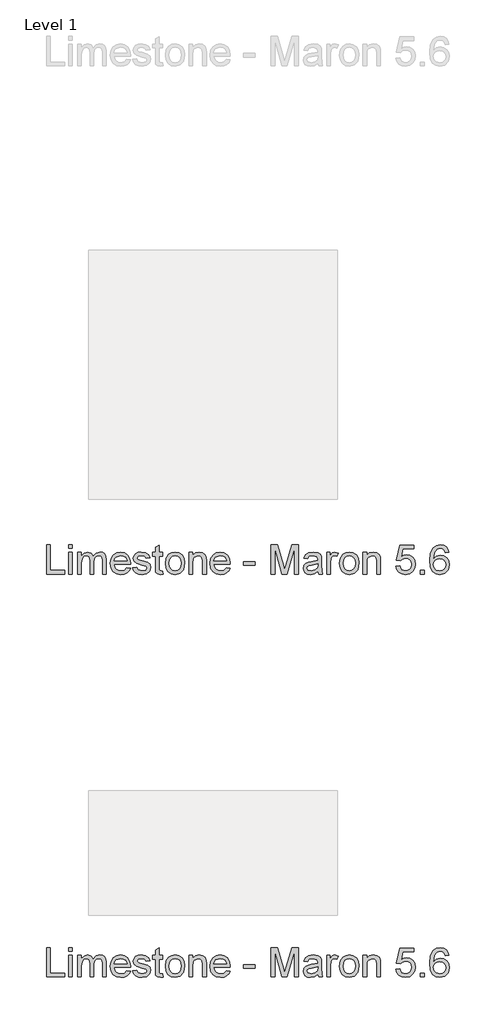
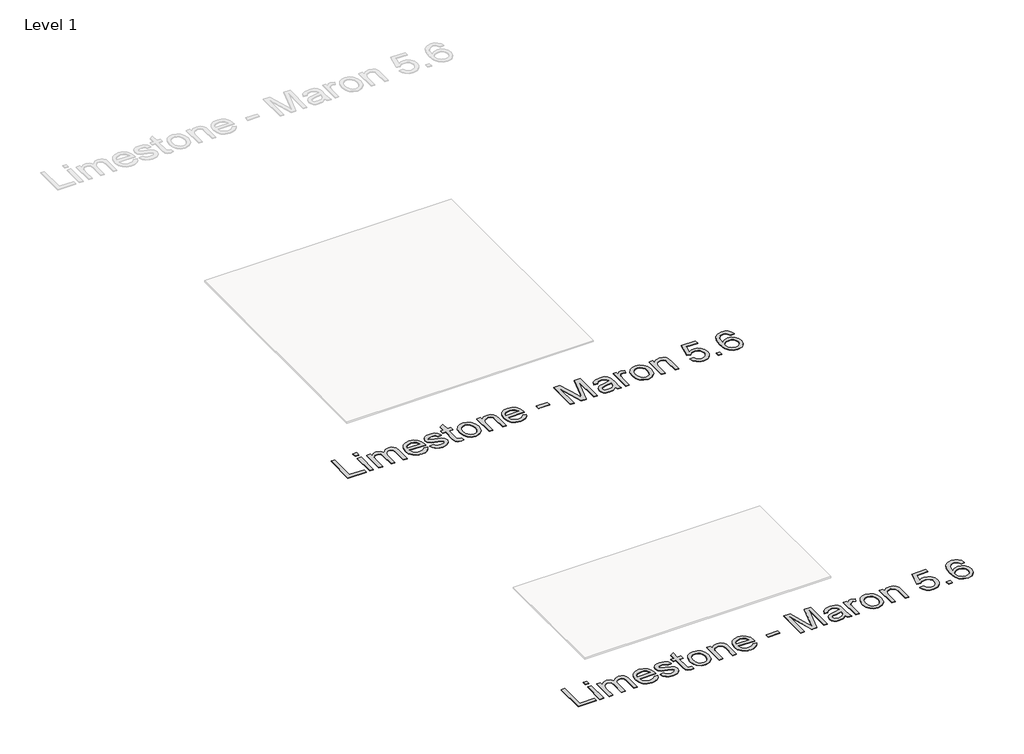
# One storey, part 18 of 80: 2 proxies.
"""IFC4 building model written with IfcOpenShell, lengths in millimetres."""

from ifc_helpers import new_model, si_unit, origin, origin_with_axes, place, context, project, spatial, polyline, outline, extrude, element, save

model = new_model("IFC4")

# Units and contexts
model_context = context("Model", 3, world=origin())
ifc_project = project(units=[si_unit("LENGTHUNIT", "METRE", prefix="MILLI")], contexts=[model_context])

# Site, building, storey
site = spatial("IfcSite", under=ifc_project)
building = spatial("IfcBuilding", under=site)
storey = spatial("IfcBuildingStorey", under=building, Name="Level 1", Elevation=0.0)

# Proxies
placement = place(None, origin())
element("IfcBuildingElementProxy", 1, Name="24\" Arial", ObjectType="24\" Arial", at=placement, inside=storey, context=model_context, shape_type="SweptSolid", body=[
    extrude(outline(polyline([(-23314.7684156, -675.4265771), (-23314.7684156, -557.272731), (-23299.9991848, -557.272731), (-23299.9991848, -660.6573464), (-23240.9222617, -660.6573464), (-23240.9222617, -675.4265771), (-23314.7684156, -675.4265771)])), origin_with_axes(), (0.0, 0.0, 1.0), 2.0),
    extrude(outline(polyline([(-23226.153031, -572.0419617), (-23226.153031, -557.272731), (-23211.3838002, -557.272731), (-23211.3838002, -572.0419617), (-23226.153031, -572.0419617)])), origin_with_axes(), (0.0, 0.0, 1.0), 2.0),
    extrude(outline(polyline([(-23226.153031, -675.4265771), (-23226.153031, -588.6573464), (-23211.3838002, -588.6573464), (-23211.3838002, -675.4265771), (-23226.153031, -675.4265771)])), origin_with_axes(), (0.0, 0.0, 1.0), 2.0),
    extrude(outline(polyline([(-23189.2299541, -675.4265771), (-23189.2299541, -588.6573464), (-23174.4607233, -588.6573464), (-23174.4607233, -602.9361925), (-23164.3068771, -591.2390771), (-23149.8549541, -586.8111925), (-23135.0568771, -591.3256156), (-23126.9222617, -603.974654), (-23115.3982233, -591.1020579), (-23100.8453387, -586.8111925), (-23089.7431752, -588.5960483), (-23081.5328387, -593.9506156), (-23076.4595214, -603.0191252), (-23074.7684156, -615.9458079), (-23074.7684156, -675.4265771), (-23089.5376464, -675.4265771), (-23089.5376464, -622.2919617), (-23090.9078387, -609.960231), (-23095.8693771, -603.8881156), (-23104.3068771, -601.5804233), (-23112.3080791, -603.0587887), (-23118.8309156, -607.4938848), (-23123.168656, -615.1885964), (-23124.6145694, -626.4458079), (-23124.6145694, -675.4265771), (-23139.3838002, -675.4265771), (-23139.3838002, -620.647731), (-23142.8020694, -606.3400387), (-23154.0088002, -601.5804233), (-23164.9414925, -604.7535002), (-23172.2107233, -614.0419617), (-23174.4607233, -631.6669617), (-23174.4607233, -675.4265771), (-23189.2299541, -675.4265771)])), origin_with_axes(), (0.0, 0.0, 1.0), 2.0),
    extrude(outline(polyline([(-22991.8645694, -649.5804233), (-22977.3838002, -651.4265771), (-22982.6013483, -662.3376348), (-22990.9270694, -670.4938848), (-23002.1734637, -675.5780194), (-23016.153031, -677.272731), (-23033.4823579, -674.3484521), (-23046.8164925, -665.5756156), (-23055.3188964, -651.5239329), (-23058.153031, -632.7631156), (-23055.2900502, -613.3712887), (-23046.7011079, -598.8688848), (-23033.5472617, -589.8256156), (-23016.9895694, -586.8111925), (-23000.9475021, -589.818404), (-22988.1289925, -598.8400387), (-22979.7239444, -613.3135964), (-22976.9222617, -632.6765771), (-22977.0088002, -636.6573464), (-23043.3838002, -636.6573464), (-23040.8273098, -647.7126348), (-23034.8886079, -655.8400387), (-23026.3176944, -660.8376348), (-23015.8645694, -662.5035002), (-23001.3838002, -659.4169617), (-22991.8645694, -649.5804233)]), holes=[polyline([(-23043.3838002, -621.8881156), (-22991.6914925, -621.8881156), (-22997.6049541, -608.5035002), (-23006.215531, -603.3111925), (-23017.0472617, -601.5804233), (-23035.2347617, -607.1044617), (-23040.9571175, -613.5623944), (-23043.3838002, -621.8881156)])]), origin_with_axes(), (0.0, 0.0, 1.0), 2.0),
    extrude(outline(polyline([(-22967.6914925, -649.5804233), (-22952.9222617, -647.7342694), (-22946.0857233, -658.6958079), (-22930.4222617, -662.5035002), (-22915.3645694, -659.0131156), (-22910.4607233, -650.8208079), (-22915.3934156, -644.1861925), (-22930.5953387, -639.974654), (-22952.8357233, -632.7486925), (-22962.5424541, -624.3111925), (-22965.8453387, -612.397731), (-22963.1914925, -601.3929233), (-22955.9511079, -592.9842694), (-22946.5616848, -588.6140771), (-22933.8549541, -586.8111925), (-22915.8838002, -589.710231), (-22904.4607233, -597.5563848), (-22899.3838002, -610.8111925), (-22914.153031, -612.6573464), (-22919.7059156, -604.5083079), (-22932.7011079, -601.5804233), (-22946.8357233, -604.3785002), (-22951.0761079, -610.897731), (-22949.3164925, -615.1958079), (-22943.8068771, -618.4554233), (-22931.0857233, -621.599654), (-22909.4078387, -628.5515771), (-22899.340531, -636.4265771), (-22895.6914925, -649.2631156), (-22899.9751464, -663.397731), (-22912.3357233, -673.6525387), (-22930.6241848, -677.272731), (-22945.5160117, -675.5275387), (-22956.3838002, -670.2919617), (-22963.6386079, -661.6236925), (-22967.6914925, -649.5804233)])), origin_with_axes(), (0.0, 0.0, 1.0), 2.0),
    extrude(outline(polyline([(-22847.6914925, -663.1092694), (-22845.8453387, -675.8592694), (-22856.8934156, -677.272731), (-22869.2684156, -674.8208079), (-22875.4414925, -668.3881156), (-22877.2299541, -651.6285002), (-22877.2299541, -603.4265771), (-22888.3068771, -603.4265771), (-22888.3068771, -588.6573464), (-22877.2299541, -588.6573464), (-22877.2299541, -567.5708079), (-22862.4607233, -558.8881156), (-22862.4607233, -588.6573464), (-22847.6914925, -588.6573464), (-22847.6914925, -603.4265771), (-22862.4607233, -603.4265771), (-22862.4607233, -651.1958079), (-22861.6818771, -658.8111925), (-22859.1578387, -661.5083079), (-22854.1241848, -662.5035002), (-22847.6914925, -663.1092694)])), origin_with_axes(), (0.0, 0.0, 1.0), 2.0),
    extrude(outline(polyline([(-22836.6145694, -632.0419617), (-22833.4198579, -611.1212887), (-22823.8357233, -596.4169617), (-22811.9943771, -589.2126348), (-22797.8164925, -586.8111925), (-22782.3008675, -589.7354714), (-22769.9078387, -598.5083079), (-22761.7840406, -612.4373944), (-22759.0761079, -630.8304233), (-22763.8645694, -657.1092694), (-22777.8116848, -671.9794617), (-22797.8164925, -677.272731), (-22813.5196175, -674.3592694), (-22825.8982233, -665.6188848), (-22833.9354829, -651.397731), (-22836.6145694, -632.0419617)]), holes=[polyline([(-22821.8453387, -632.0131156), (-22820.1362041, -645.3797021), (-22815.0088002, -654.9025387), (-22807.2924541, -660.6032598), (-22797.8164925, -662.5035002), (-22788.3838002, -660.5924425), (-22780.6818771, -654.8592694), (-22775.5544733, -645.210231), (-22773.8453387, -631.5515771), (-22775.5652906, -618.5744137), (-22780.7251464, -609.1813848), (-22788.4378867, -603.4806637), (-22797.8164925, -601.5804233), (-22807.2924541, -603.4734521), (-22815.0088002, -609.1525387), (-22820.1362041, -618.6537406), (-22821.8453387, -632.0131156)])]), origin_with_axes(), (0.0, 0.0, 1.0), 2.0),
    extrude(outline(polyline([(-22742.4607233, -675.4265771), (-22742.4607233, -588.6573464), (-22727.6914925, -588.6573464), (-22727.6914925, -600.772731), (-22716.3982233, -590.3015771), (-22700.9799541, -586.8111925), (-22687.0328387, -589.6236925), (-22677.5136079, -597.0083079), (-22673.0857233, -607.8688848), (-22672.3068771, -622.147731), (-22672.3068771, -675.4265771), (-22687.0761079, -675.4265771), (-22687.0761079, -624.1381156), (-22688.778031, -611.0708079), (-22694.7924541, -604.162154), (-22704.9318771, -601.5804233), (-22720.9559156, -607.3785002), (-22726.0075983, -615.7799425), (-22727.6914925, -629.3881156), (-22727.6914925, -675.4265771), (-22742.4607233, -675.4265771)])), origin_with_axes(), (0.0, 0.0, 1.0), 2.0),
    extrude(outline(polyline([(-22591.2491848, -649.5804233), (-22576.7684156, -651.4265771), (-22581.9859637, -662.3376348), (-22590.3116848, -670.4938848), (-22601.5580791, -675.5780194), (-22615.5376464, -677.272731), (-22632.8669733, -674.3484521), (-22646.2011079, -665.5756156), (-22654.7035117, -651.5239329), (-22657.5376464, -632.7631156), (-22654.6746656, -613.3712887), (-22646.0857233, -598.8688848), (-22632.9318771, -589.8256156), (-22616.3741848, -586.8111925), (-22600.3321175, -589.818404), (-22587.5136079, -598.8400387), (-22579.1085598, -613.3135964), (-22576.3068771, -632.6765771), (-22576.3934156, -636.6573464), (-22642.7684156, -636.6573464), (-22640.2119252, -647.7126348), (-22634.2732233, -655.8400387), (-22625.7023098, -660.8376348), (-22615.2491848, -662.5035002), (-22600.7684156, -659.4169617), (-22591.2491848, -649.5804233)]), holes=[polyline([(-22642.7684156, -621.8881156), (-22591.0761079, -621.8881156), (-22596.9895694, -608.5035002), (-22605.6001464, -603.3111925), (-22616.4318771, -601.5804233), (-22634.6193771, -607.1044617), (-22640.3417329, -613.5623944), (-22642.7684156, -621.8881156)])]), origin_with_axes(), (0.0, 0.0, 1.0), 2.0),
    extrude(outline(polyline([(-22522.7684156, -640.349654), (-22522.7684156, -625.5804233), (-22476.6145694, -625.5804233), (-22476.6145694, -640.349654), (-22522.7684156, -640.349654)])), origin_with_axes(), (0.0, 0.0, 1.0), 2.0),
    extrude(outline(polyline([(-22411.9991848, -675.4265771), (-22411.9991848, -557.272731), (-22386.5857233, -557.272731), (-22362.4126464, -640.5515771), (-22357.5376464, -657.9458079), (-22352.2588002, -639.1092694), (-22328.4895694, -557.272731), (-22303.0761079, -557.272731), (-22303.0761079, -675.4265771), (-22317.8453387, -675.4265771), (-22317.8453387, -572.0419617), (-22347.528031, -675.4265771), (-22367.5472617, -675.4265771), (-22397.2299541, -572.0419617), (-22397.2299541, -675.4265771), (-22411.9991848, -675.4265771)])), origin_with_axes(), (0.0, 0.0, 1.0), 2.0),
    extrude(outline(polyline([(-22223.6914925, -664.349654), (-22238.0136079, -674.3592694), (-22253.8357233, -677.272731), (-22266.1782714, -675.5203271), (-22275.2828387, -670.2631156), (-22280.8970214, -662.2799425), (-22282.7684156, -652.349654), (-22279.9414925, -640.6669617), (-22272.5136079, -632.1861925), (-22262.1722617, -627.3400387), (-22249.3934156, -625.1188848), (-22223.778031, -620.0419617), (-22223.6914925, -616.7535002), (-22227.7588002, -605.849654), (-22244.0857233, -601.5804233), (-22259.028031, -604.4217694), (-22266.153031, -614.5035002), (-22280.9222617, -612.6573464), (-22274.5328387, -598.2342694), (-22261.6674541, -589.7823464), (-22242.1818771, -586.8111925), (-22224.2828387, -589.4361925), (-22214.1722617, -596.0275387), (-22209.6434156, -606.0515771), (-22208.9222617, -618.974654), (-22208.9222617, -637.349654), (-22208.1722617, -663.0083079), (-22205.2299541, -675.4265771), (-22219.9991848, -675.4265771), (-22223.6914925, -664.349654)]), holes=[polyline([(-22223.6914925, -634.8111925), (-22247.5184156, -639.3400387), (-22260.2251464, -641.7342694), (-22265.9799541, -645.6285002), (-22267.9991848, -651.3111925), (-22263.6001464, -659.3015771), (-22250.6914925, -662.5035002), (-22235.7491848, -658.9698464), (-22226.1145694, -650.4169617), (-22223.778031, -638.9938848), (-22223.6914925, -634.8111925)])]), origin_with_axes(), (0.0, 0.0, 1.0), 2.0),
    extrude(outline(polyline([(-22188.6145694, -675.4265771), (-22188.6145694, -588.6573464), (-22175.6914925, -588.6573464), (-22175.6914925, -601.4938848), (-22166.5184156, -589.6669617), (-22157.2876464, -586.8111925), (-22142.4607233, -591.3688848), (-22147.3934156, -604.6092694), (-22157.778031, -601.5804233), (-22166.1289925, -604.4938848), (-22171.4511079, -612.5708079), (-22173.8453387, -629.8208079), (-22173.8453387, -675.4265771), (-22188.6145694, -675.4265771)])), origin_with_axes(), (0.0, 0.0, 1.0), 2.0),
    extrude(outline(polyline([(-22136.9222617, -632.0419617), (-22133.7275502, -611.1212887), (-22124.1434156, -596.4169617), (-22112.3020694, -589.2126348), (-22098.1241848, -586.8111925), (-22082.6085598, -589.7354714), (-22070.215531, -598.5083079), (-22062.0917329, -612.4373944), (-22059.3838002, -630.8304233), (-22064.1722617, -657.1092694), (-22078.1193771, -671.9794617), (-22098.1241848, -677.272731), (-22113.8273098, -674.3592694), (-22126.2059156, -665.6188848), (-22134.2431752, -651.397731), (-22136.9222617, -632.0419617)]), holes=[polyline([(-22122.153031, -632.0131156), (-22120.4438964, -645.3797021), (-22115.3164925, -654.9025387), (-22107.6001464, -660.6032598), (-22098.1241848, -662.5035002), (-22088.6914925, -660.5924425), (-22080.9895694, -654.8592694), (-22075.8621656, -645.210231), (-22074.153031, -631.5515771), (-22075.8729829, -618.5744137), (-22081.0328387, -609.1813848), (-22088.7455791, -603.4806637), (-22098.1241848, -601.5804233), (-22107.6001464, -603.4734521), (-22115.3164925, -609.1525387), (-22120.4438964, -618.6537406), (-22122.153031, -632.0131156)])]), origin_with_axes(), (0.0, 0.0, 1.0), 2.0),
    extrude(outline(polyline([(-22042.7684156, -675.4265771), (-22042.7684156, -588.6573464), (-22027.9991848, -588.6573464), (-22027.9991848, -600.772731), (-22016.7059156, -590.3015771), (-22001.2876464, -586.8111925), (-21987.340531, -589.6236925), (-21977.8213002, -597.0083079), (-21973.3934156, -607.8688848), (-21972.6145694, -622.147731), (-21972.6145694, -675.4265771), (-21987.3838002, -675.4265771), (-21987.3838002, -624.1381156), (-21989.0857233, -611.0708079), (-21995.1001464, -604.162154), (-22005.2395694, -601.5804233), (-22021.2636079, -607.3785002), (-22026.3152906, -615.7799425), (-22027.9991848, -629.3881156), (-22027.9991848, -675.4265771), (-22042.7684156, -675.4265771)])), origin_with_axes(), (0.0, 0.0, 1.0), 2.0),
    extrude(outline(polyline([(-21909.8453387, -644.0419617), (-21895.0761079, -642.1958079), (-21887.6338002, -657.412154), (-21872.2011079, -662.5035002), (-21861.6145694, -660.7330675), (-21853.6818771, -655.4217694), (-21848.7275502, -647.1825867), (-21847.0761079, -636.6285002), (-21848.6229829, -626.6910002), (-21853.2636079, -619.0900387), (-21861.0340406, -614.2655194), (-21871.9703387, -612.6573464), (-21884.9366848, -615.224654), (-21893.2299541, -621.8881156), (-21907.9991848, -620.0419617), (-21895.0761079, -559.1188848), (-21837.8453387, -559.1188848), (-21837.8453387, -573.8881156), (-21883.1338002, -573.8881156), (-21889.4511079, -606.4265771), (-21878.9006271, -600.022731), (-21867.8453387, -597.8881156), (-21854.0460598, -600.5347502), (-21842.590531, -608.474654), (-21834.8777906, -620.5756156), (-21832.3068771, -635.7054233), (-21834.621781, -650.474654), (-21841.5664925, -663.1092694), (-21854.8645694, -673.7318656), (-21872.2588002, -677.272731), (-21886.7648098, -674.9974906), (-21898.3213002, -668.1717694), (-21906.2431752, -657.5888367), (-21909.8453387, -644.0419617)])), origin_with_axes(), (0.0, 0.0, 1.0), 2.0),
    extrude(outline(polyline([(-21811.9991848, -675.4265771), (-21811.9991848, -660.6573464), (-21797.2299541, -660.6573464), (-21797.2299541, -675.4265771), (-21811.9991848, -675.4265771)])), origin_with_axes(), (0.0, 0.0, 1.0), 2.0),
    extrude(outline(polyline([(-21697.5376464, -588.6573464), (-21712.3068771, -590.5035002), (-21717.903031, -578.1861925), (-21724.6025502, -573.5780194), (-21732.7011079, -572.0419617), (-21746.028031, -575.6188848), (-21756.1097617, -589.0467694), (-21760.3068771, -615.3688848), (-21747.2828387, -603.585231), (-21731.1434156, -599.7342694), (-21717.4991848, -602.366481), (-21706.0472617, -610.2631156), (-21698.2804348, -622.3280194), (-21695.6914925, -637.4650387), (-21700.5664925, -657.8448464), (-21713.9799541, -672.2679233), (-21733.3357233, -677.272731), (-21750.0917329, -673.9554233), (-21763.4366848, -664.0035002), (-21772.1662521, -646.4361925), (-21775.0761079, -620.272731), (-21771.8453387, -590.8568656), (-21762.153031, -570.7438848), (-21748.9198579, -560.6405194), (-21731.778031, -557.272731), (-21718.8188964, -559.3568656), (-21708.4414925, -565.6092694), (-21701.1722617, -575.5395579), (-21697.5376464, -588.6573464)]), holes=[polyline([(-21760.3068771, -637.2342694), (-21756.8886079, -650.0275387), (-21747.8020694, -659.3160002), (-21734.4895694, -662.5035002), (-21724.7431752, -660.8520579), (-21717.0809156, -655.897731), (-21712.1157714, -648.1092694), (-21710.4607233, -637.9554233), (-21712.0941367, -628.209029), (-21716.9943771, -620.7775387), (-21724.7864444, -616.0720098), (-21735.0953387, -614.5035002), (-21744.8273098, -616.0720098), (-21752.965531, -620.7775387), (-21758.4715406, -628.0287406), (-21760.3068771, -637.2342694)])]), origin_with_axes(), (0.0, 0.0, 1.0), 2.0),
])
element("IfcBuildingElementProxy", 2, Name="24\" Arial", ObjectType="24\" Arial", at=placement, inside=storey, context=model_context, shape_type="SweptSolid", body=[
    extrude(outline(polyline([(-23314.7684156, -2293.131793), (-23314.7684156, -2174.9779468), (-23299.9991848, -2174.9779468), (-23299.9991848, -2278.3625622), (-23240.9222617, -2278.3625622), (-23240.9222617, -2293.131793), (-23314.7684156, -2293.131793)])), origin_with_axes(), (0.0, 0.0, 1.0), 2.0),
    extrude(outline(polyline([(-23226.153031, -2189.7471776), (-23226.153031, -2174.9779468), (-23211.3838002, -2174.9779468), (-23211.3838002, -2189.7471776), (-23226.153031, -2189.7471776)])), origin_with_axes(), (0.0, 0.0, 1.0), 2.0),
    extrude(outline(polyline([(-23226.153031, -2293.131793), (-23226.153031, -2206.3625622), (-23211.3838002, -2206.3625622), (-23211.3838002, -2293.131793), (-23226.153031, -2293.131793)])), origin_with_axes(), (0.0, 0.0, 1.0), 2.0),
    extrude(outline(polyline([(-23189.2299541, -2293.131793), (-23189.2299541, -2206.3625622), (-23174.4607233, -2206.3625622), (-23174.4607233, -2220.6414084), (-23164.3068771, -2208.944293), (-23149.8549541, -2204.5164084), (-23135.0568771, -2209.0308314), (-23126.9222617, -2221.6798699), (-23115.3982233, -2208.8072737), (-23100.8453387, -2204.5164084), (-23089.7431752, -2206.3012641), (-23081.5328387, -2211.6558314), (-23076.4595214, -2220.724341), (-23074.7684156, -2233.6510237), (-23074.7684156, -2293.131793), (-23089.5376464, -2293.131793), (-23089.5376464, -2239.9971776), (-23090.9078387, -2227.6654468), (-23095.8693771, -2221.5933314), (-23104.3068771, -2219.2856391), (-23112.3080791, -2220.7640045), (-23118.8309156, -2225.1991007), (-23123.168656, -2232.8938122), (-23124.6145694, -2244.1510237), (-23124.6145694, -2293.131793), (-23139.3838002, -2293.131793), (-23139.3838002, -2238.3529468), (-23142.8020694, -2224.0452545), (-23154.0088002, -2219.2856391), (-23164.9414925, -2222.458716), (-23172.2107233, -2231.7471776), (-23174.4607233, -2249.3721776), (-23174.4607233, -2293.131793), (-23189.2299541, -2293.131793)])), origin_with_axes(), (0.0, 0.0, 1.0), 2.0),
    extrude(outline(polyline([(-22991.8645694, -2267.2856391), (-22977.3838002, -2269.131793), (-22982.6013483, -2280.0428507), (-22990.9270694, -2288.1991007), (-23002.1734637, -2293.2832353), (-23016.153031, -2294.9779468), (-23033.4823579, -2292.053668), (-23046.8164925, -2283.2808314), (-23055.3188964, -2269.2291487), (-23058.153031, -2250.4683314), (-23055.2900502, -2231.0765045), (-23046.7011079, -2216.5741007), (-23033.5472617, -2207.5308314), (-23016.9895694, -2204.5164084), (-23000.9475021, -2207.5236199), (-22988.1289925, -2216.5452545), (-22979.7239444, -2231.0188122), (-22976.9222617, -2250.381793), (-22977.0088002, -2254.3625622), (-23043.3838002, -2254.3625622), (-23040.8273098, -2265.4178507), (-23034.8886079, -2273.5452545), (-23026.3176944, -2278.5428507), (-23015.8645694, -2280.208716), (-23001.3838002, -2277.1221776), (-22991.8645694, -2267.2856391)]), holes=[polyline([(-23043.3838002, -2239.5933314), (-22991.6914925, -2239.5933314), (-22997.6049541, -2226.208716), (-23006.215531, -2221.0164084), (-23017.0472617, -2219.2856391), (-23035.2347617, -2224.8096776), (-23040.9571175, -2231.2676103), (-23043.3838002, -2239.5933314)])]), origin_with_axes(), (0.0, 0.0, 1.0), 2.0),
    extrude(outline(polyline([(-22967.6914925, -2267.2856391), (-22952.9222617, -2265.4394853), (-22946.0857233, -2276.4010237), (-22930.4222617, -2280.208716), (-22915.3645694, -2276.7183314), (-22910.4607233, -2268.5260237), (-22915.3934156, -2261.8914084), (-22930.5953387, -2257.6798699), (-22952.8357233, -2250.4539084), (-22962.5424541, -2242.0164084), (-22965.8453387, -2230.1029468), (-22963.1914925, -2219.0981391), (-22955.9511079, -2210.6894853), (-22946.5616848, -2206.319293), (-22933.8549541, -2204.5164084), (-22915.8838002, -2207.4154468), (-22904.4607233, -2215.2616007), (-22899.3838002, -2228.5164084), (-22914.153031, -2230.3625622), (-22919.7059156, -2222.2135237), (-22932.7011079, -2219.2856391), (-22946.8357233, -2222.083716), (-22951.0761079, -2228.6029468), (-22949.3164925, -2232.9010237), (-22943.8068771, -2236.1606391), (-22931.0857233, -2239.3048699), (-22909.4078387, -2246.256793), (-22899.340531, -2254.131793), (-22895.6914925, -2266.9683314), (-22899.9751464, -2281.1029468), (-22912.3357233, -2291.3577545), (-22930.6241848, -2294.9779468), (-22945.5160117, -2293.2327545), (-22956.3838002, -2287.9971776), (-22963.6386079, -2279.3289084), (-22967.6914925, -2267.2856391)])), origin_with_axes(), (0.0, 0.0, 1.0), 2.0),
    extrude(outline(polyline([(-22847.6914925, -2280.8144853), (-22845.8453387, -2293.5644853), (-22856.8934156, -2294.9779468), (-22869.2684156, -2292.5260237), (-22875.4414925, -2286.0933314), (-22877.2299541, -2269.333716), (-22877.2299541, -2221.131793), (-22888.3068771, -2221.131793), (-22888.3068771, -2206.3625622), (-22877.2299541, -2206.3625622), (-22877.2299541, -2185.2760237), (-22862.4607233, -2176.5933314), (-22862.4607233, -2206.3625622), (-22847.6914925, -2206.3625622), (-22847.6914925, -2221.131793), (-22862.4607233, -2221.131793), (-22862.4607233, -2268.9010237), (-22861.6818771, -2276.5164084), (-22859.1578387, -2279.2135237), (-22854.1241848, -2280.208716), (-22847.6914925, -2280.8144853)])), origin_with_axes(), (0.0, 0.0, 1.0), 2.0),
    extrude(outline(polyline([(-22836.6145694, -2249.7471776), (-22833.4198579, -2228.8265045), (-22823.8357233, -2214.1221776), (-22811.9943771, -2206.9178507), (-22797.8164925, -2204.5164084), (-22782.3008675, -2207.4406872), (-22769.9078387, -2216.2135237), (-22761.7840406, -2230.1426103), (-22759.0761079, -2248.5356391), (-22763.8645694, -2274.8144853), (-22777.8116848, -2289.6846776), (-22797.8164925, -2294.9779468), (-22813.5196175, -2292.0644853), (-22825.8982233, -2283.3241007), (-22833.9354829, -2269.1029468), (-22836.6145694, -2249.7471776)]), holes=[polyline([(-22821.8453387, -2249.7183314), (-22820.1362041, -2263.084918), (-22815.0088002, -2272.6077545), (-22807.2924541, -2278.3084757), (-22797.8164925, -2280.208716), (-22788.3838002, -2278.2976584), (-22780.6818771, -2272.5644853), (-22775.5544733, -2262.9154468), (-22773.8453387, -2249.256793), (-22775.5652906, -2236.2796295), (-22780.7251464, -2226.8866007), (-22788.4378867, -2221.1858795), (-22797.8164925, -2219.2856391), (-22807.2924541, -2221.178668), (-22815.0088002, -2226.8577545), (-22820.1362041, -2236.3589564), (-22821.8453387, -2249.7183314)])]), origin_with_axes(), (0.0, 0.0, 1.0), 2.0),
    extrude(outline(polyline([(-22742.4607233, -2293.131793), (-22742.4607233, -2206.3625622), (-22727.6914925, -2206.3625622), (-22727.6914925, -2218.4779468), (-22716.3982233, -2208.006793), (-22700.9799541, -2204.5164084), (-22687.0328387, -2207.3289084), (-22677.5136079, -2214.7135237), (-22673.0857233, -2225.5741007), (-22672.3068771, -2239.8529468), (-22672.3068771, -2293.131793), (-22687.0761079, -2293.131793), (-22687.0761079, -2241.8433314), (-22688.778031, -2228.7760237), (-22694.7924541, -2221.8673699), (-22704.9318771, -2219.2856391), (-22720.9559156, -2225.083716), (-22726.0075983, -2233.4851584), (-22727.6914925, -2247.0933314), (-22727.6914925, -2293.131793), (-22742.4607233, -2293.131793)])), origin_with_axes(), (0.0, 0.0, 1.0), 2.0),
    extrude(outline(polyline([(-22591.2491848, -2267.2856391), (-22576.7684156, -2269.131793), (-22581.9859637, -2280.0428507), (-22590.3116848, -2288.1991007), (-22601.5580791, -2293.2832353), (-22615.5376464, -2294.9779468), (-22632.8669733, -2292.053668), (-22646.2011079, -2283.2808314), (-22654.7035117, -2269.2291487), (-22657.5376464, -2250.4683314), (-22654.6746656, -2231.0765045), (-22646.0857233, -2216.5741007), (-22632.9318771, -2207.5308314), (-22616.3741848, -2204.5164084), (-22600.3321175, -2207.5236199), (-22587.5136079, -2216.5452545), (-22579.1085598, -2231.0188122), (-22576.3068771, -2250.381793), (-22576.3934156, -2254.3625622), (-22642.7684156, -2254.3625622), (-22640.2119252, -2265.4178507), (-22634.2732233, -2273.5452545), (-22625.7023098, -2278.5428507), (-22615.2491848, -2280.208716), (-22600.7684156, -2277.1221776), (-22591.2491848, -2267.2856391)]), holes=[polyline([(-22642.7684156, -2239.5933314), (-22591.0761079, -2239.5933314), (-22596.9895694, -2226.208716), (-22605.6001464, -2221.0164084), (-22616.4318771, -2219.2856391), (-22634.6193771, -2224.8096776), (-22640.3417329, -2231.2676103), (-22642.7684156, -2239.5933314)])]), origin_with_axes(), (0.0, 0.0, 1.0), 2.0),
    extrude(outline(polyline([(-22522.7684156, -2258.0548699), (-22522.7684156, -2243.2856391), (-22476.6145694, -2243.2856391), (-22476.6145694, -2258.0548699), (-22522.7684156, -2258.0548699)])), origin_with_axes(), (0.0, 0.0, 1.0), 2.0),
    extrude(outline(polyline([(-22411.9991848, -2293.131793), (-22411.9991848, -2174.9779468), (-22386.5857233, -2174.9779468), (-22362.4126464, -2258.256793), (-22357.5376464, -2275.6510237), (-22352.2588002, -2256.8144853), (-22328.4895694, -2174.9779468), (-22303.0761079, -2174.9779468), (-22303.0761079, -2293.131793), (-22317.8453387, -2293.131793), (-22317.8453387, -2189.7471776), (-22347.528031, -2293.131793), (-22367.5472617, -2293.131793), (-22397.2299541, -2189.7471776), (-22397.2299541, -2293.131793), (-22411.9991848, -2293.131793)])), origin_with_axes(), (0.0, 0.0, 1.0), 2.0),
    extrude(outline(polyline([(-22223.6914925, -2282.0548699), (-22238.0136079, -2292.0644853), (-22253.8357233, -2294.9779468), (-22266.1782714, -2293.225543), (-22275.2828387, -2287.9683314), (-22280.8970214, -2279.9851584), (-22282.7684156, -2270.0548699), (-22279.9414925, -2258.3721776), (-22272.5136079, -2249.8914084), (-22262.1722617, -2245.0452545), (-22249.3934156, -2242.8241007), (-22223.778031, -2237.7471776), (-22223.6914925, -2234.458716), (-22227.7588002, -2223.5548699), (-22244.0857233, -2219.2856391), (-22259.028031, -2222.1269853), (-22266.153031, -2232.208716), (-22280.9222617, -2230.3625622), (-22274.5328387, -2215.9394853), (-22261.6674541, -2207.4875622), (-22242.1818771, -2204.5164084), (-22224.2828387, -2207.1414084), (-22214.1722617, -2213.7327545), (-22209.6434156, -2223.756793), (-22208.9222617, -2236.6798699), (-22208.9222617, -2255.0548699), (-22208.1722617, -2280.7135237), (-22205.2299541, -2293.131793), (-22219.9991848, -2293.131793), (-22223.6914925, -2282.0548699)]), holes=[polyline([(-22223.6914925, -2252.5164084), (-22247.5184156, -2257.0452545), (-22260.2251464, -2259.4394853), (-22265.9799541, -2263.333716), (-22267.9991848, -2269.0164084), (-22263.6001464, -2277.006793), (-22250.6914925, -2280.208716), (-22235.7491848, -2276.6750622), (-22226.1145694, -2268.1221776), (-22223.778031, -2256.6991007), (-22223.6914925, -2252.5164084)])]), origin_with_axes(), (0.0, 0.0, 1.0), 2.0),
    extrude(outline(polyline([(-22188.6145694, -2293.131793), (-22188.6145694, -2206.3625622), (-22175.6914925, -2206.3625622), (-22175.6914925, -2219.1991007), (-22166.5184156, -2207.3721776), (-22157.2876464, -2204.5164084), (-22142.4607233, -2209.0741007), (-22147.3934156, -2222.3144853), (-22157.778031, -2219.2856391), (-22166.1289925, -2222.1991007), (-22171.4511079, -2230.2760237), (-22173.8453387, -2247.5260237), (-22173.8453387, -2293.131793), (-22188.6145694, -2293.131793)])), origin_with_axes(), (0.0, 0.0, 1.0), 2.0),
    extrude(outline(polyline([(-22136.9222617, -2249.7471776), (-22133.7275502, -2228.8265045), (-22124.1434156, -2214.1221776), (-22112.3020694, -2206.9178507), (-22098.1241848, -2204.5164084), (-22082.6085598, -2207.4406872), (-22070.215531, -2216.2135237), (-22062.0917329, -2230.1426103), (-22059.3838002, -2248.5356391), (-22064.1722617, -2274.8144853), (-22078.1193771, -2289.6846776), (-22098.1241848, -2294.9779468), (-22113.8273098, -2292.0644853), (-22126.2059156, -2283.3241007), (-22134.2431752, -2269.1029468), (-22136.9222617, -2249.7471776)]), holes=[polyline([(-22122.153031, -2249.7183314), (-22120.4438964, -2263.084918), (-22115.3164925, -2272.6077545), (-22107.6001464, -2278.3084757), (-22098.1241848, -2280.208716), (-22088.6914925, -2278.2976584), (-22080.9895694, -2272.5644853), (-22075.8621656, -2262.9154468), (-22074.153031, -2249.256793), (-22075.8729829, -2236.2796295), (-22081.0328387, -2226.8866007), (-22088.7455791, -2221.1858795), (-22098.1241848, -2219.2856391), (-22107.6001464, -2221.178668), (-22115.3164925, -2226.8577545), (-22120.4438964, -2236.3589564), (-22122.153031, -2249.7183314)])]), origin_with_axes(), (0.0, 0.0, 1.0), 2.0),
    extrude(outline(polyline([(-22042.7684156, -2293.131793), (-22042.7684156, -2206.3625622), (-22027.9991848, -2206.3625622), (-22027.9991848, -2218.4779468), (-22016.7059156, -2208.006793), (-22001.2876464, -2204.5164084), (-21987.340531, -2207.3289084), (-21977.8213002, -2214.7135237), (-21973.3934156, -2225.5741007), (-21972.6145694, -2239.8529468), (-21972.6145694, -2293.131793), (-21987.3838002, -2293.131793), (-21987.3838002, -2241.8433314), (-21989.0857233, -2228.7760237), (-21995.1001464, -2221.8673699), (-22005.2395694, -2219.2856391), (-22021.2636079, -2225.083716), (-22026.3152906, -2233.4851584), (-22027.9991848, -2247.0933314), (-22027.9991848, -2293.131793), (-22042.7684156, -2293.131793)])), origin_with_axes(), (0.0, 0.0, 1.0), 2.0),
    extrude(outline(polyline([(-21909.8453387, -2261.7471776), (-21895.0761079, -2259.9010237), (-21887.6338002, -2275.1173699), (-21872.2011079, -2280.208716), (-21861.6145694, -2278.4382834), (-21853.6818771, -2273.1269853), (-21848.7275502, -2264.8878026), (-21847.0761079, -2254.333716), (-21848.6229829, -2244.396216), (-21853.2636079, -2236.7952545), (-21861.0340406, -2231.9707353), (-21871.9703387, -2230.3625622), (-21884.9366848, -2232.9298699), (-21893.2299541, -2239.5933314), (-21907.9991848, -2237.7471776), (-21895.0761079, -2176.8241007), (-21837.8453387, -2176.8241007), (-21837.8453387, -2191.5933314), (-21883.1338002, -2191.5933314), (-21889.4511079, -2224.131793), (-21878.9006271, -2217.7279468), (-21867.8453387, -2215.5933314), (-21854.0460598, -2218.239966), (-21842.590531, -2226.1798699), (-21834.8777906, -2238.2808314), (-21832.3068771, -2253.4106391), (-21834.621781, -2268.1798699), (-21841.5664925, -2280.8144853), (-21854.8645694, -2291.4370814), (-21872.2588002, -2294.9779468), (-21886.7648098, -2292.7027064), (-21898.3213002, -2285.8769853), (-21906.2431752, -2275.2940526), (-21909.8453387, -2261.7471776)])), origin_with_axes(), (0.0, 0.0, 1.0), 2.0),
    extrude(outline(polyline([(-21811.9991848, -2293.131793), (-21811.9991848, -2278.3625622), (-21797.2299541, -2278.3625622), (-21797.2299541, -2293.131793), (-21811.9991848, -2293.131793)])), origin_with_axes(), (0.0, 0.0, 1.0), 2.0),
    extrude(outline(polyline([(-21697.5376464, -2206.3625622), (-21712.3068771, -2208.208716), (-21717.903031, -2195.8914084), (-21724.6025502, -2191.2832353), (-21732.7011079, -2189.7471776), (-21746.028031, -2193.3241007), (-21756.1097617, -2206.7519853), (-21760.3068771, -2233.0741007), (-21747.2828387, -2221.2904468), (-21731.1434156, -2217.4394853), (-21717.4991848, -2220.0716968), (-21706.0472617, -2227.9683314), (-21698.2804348, -2240.0332353), (-21695.6914925, -2255.1702545), (-21700.5664925, -2275.5500622), (-21713.9799541, -2289.9731391), (-21733.3357233, -2294.9779468), (-21750.0917329, -2291.6606391), (-21763.4366848, -2281.708716), (-21772.1662521, -2264.1414084), (-21775.0761079, -2237.9779468), (-21771.8453387, -2208.5620814), (-21762.153031, -2188.4491007), (-21748.9198579, -2178.3457353), (-21731.778031, -2174.9779468), (-21718.8188964, -2177.0620814), (-21708.4414925, -2183.3144853), (-21701.1722617, -2193.2447737), (-21697.5376464, -2206.3625622)]), holes=[polyline([(-21760.3068771, -2254.9394853), (-21756.8886079, -2267.7327545), (-21747.8020694, -2277.021216), (-21734.4895694, -2280.208716), (-21724.7431752, -2278.5572737), (-21717.0809156, -2273.6029468), (-21712.1157714, -2265.8144853), (-21710.4607233, -2255.6606391), (-21712.0941367, -2245.9142449), (-21716.9943771, -2238.4827545), (-21724.7864444, -2233.7772257), (-21735.0953387, -2232.208716), (-21744.8273098, -2233.7772257), (-21752.965531, -2238.4827545), (-21758.4715406, -2245.7339564), (-21760.3068771, -2254.9394853)])]), origin_with_axes(), (0.0, 0.0, 1.0), 2.0),
])

save(model, "model.ifc")
